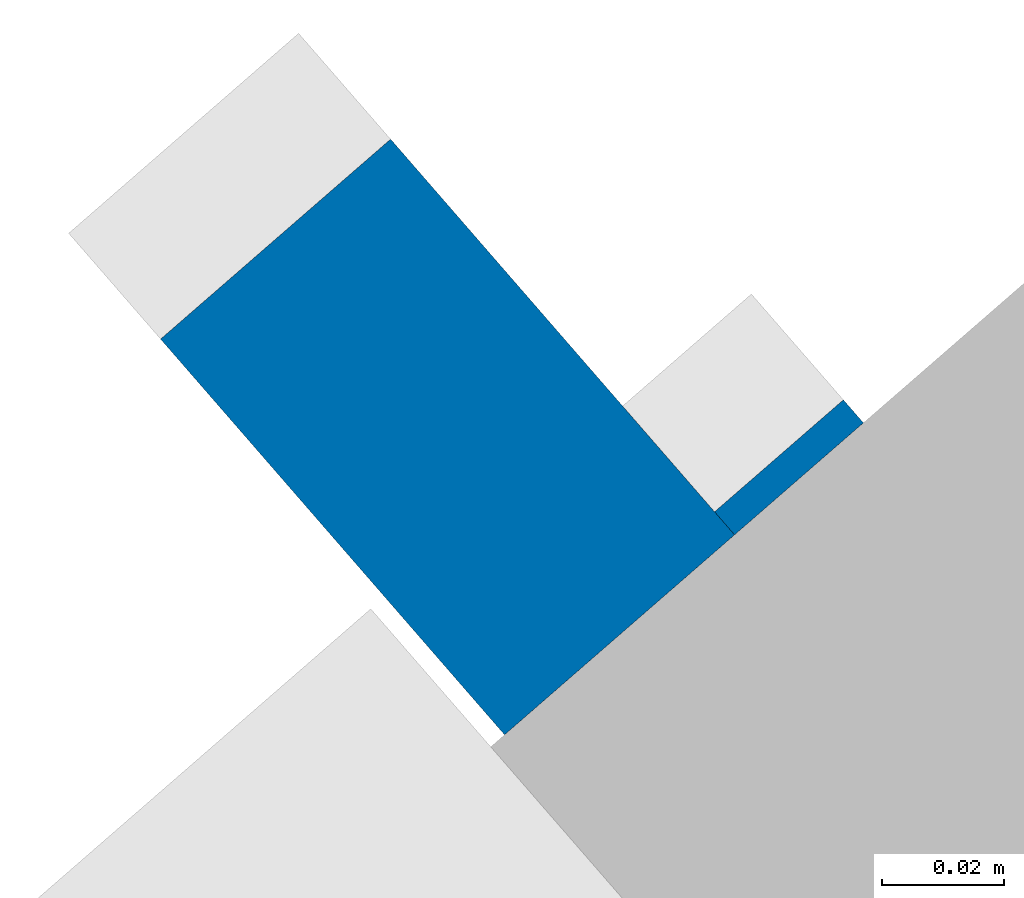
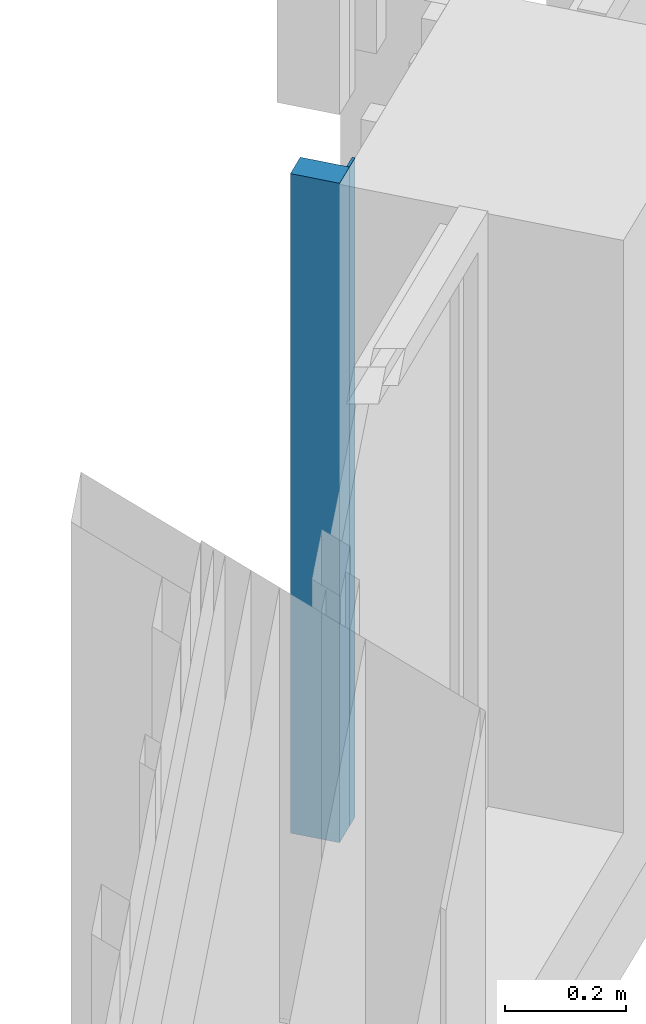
# One storey, part 226 of 390: 2 walls.
"""IFC2X3 building model written with IfcOpenShell, lengths in millimetres."""

from ifc_helpers import new_model, entity, si_unit, converted_unit, derived_unit, money_unit, direction, frame, origin_with_axes, place, context, subcontext, project, spatial, faceted_brep, material, type_object, element, save


model = new_model("IFC2X3")

# Units and contexts
model_context = context("Model", 3, precision=1e-05, world=origin_with_axes(), true_north=direction((0.0, 1.0)))
body_context = subcontext(model_context, "Body", "Model", "MODEL_VIEW")
ifc_project = project(units=[si_unit("LENGTHUNIT", "METRE", prefix="MILLI"), si_unit("AREAUNIT", "SQUARE_METRE"), si_unit("VOLUMEUNIT", "CUBIC_METRE"), converted_unit("PLANEANGLEUNIT", "DEGREE", entity("IfcPlaneAngleMeasure", 0.0174532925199), si_unit("PLANEANGLEUNIT", "RADIAN"), dimensions=[0, 0, 0, 0, 0, 0, 0]), si_unit("SOLIDANGLEUNIT", "STERADIAN"), money_unit("EUR"), converted_unit("TIMEUNIT", "Year", entity("IfcTimeMeasure", 31556926.0), si_unit("TIMEUNIT", "SECOND"), dimensions=[0, 0, 1, 0, 0, 0, 0]), si_unit("MASSUNIT", "GRAM", prefix="KILO"), si_unit("THERMODYNAMICTEMPERATUREUNIT", "DEGREE_CELSIUS"), si_unit("LUMINOUSINTENSITYUNIT", "LUMEN"), si_unit("ENERGYUNIT", "JOULE", prefix="MEGA"), derived_unit("THERMALCONDUCTANCEUNIT", [(si_unit("POWERUNIT", "WATT"), 1), (si_unit("LENGTHUNIT", "METRE"), -1), (si_unit("THERMODYNAMICTEMPERATUREUNIT", "KELVIN"), -1)]), derived_unit("SPECIFICHEATCAPACITYUNIT", [(si_unit("ENERGYUNIT", "JOULE"), 1), (si_unit("MASSUNIT", "GRAM", prefix="KILO"), -1), (si_unit("THERMODYNAMICTEMPERATUREUNIT", "KELVIN"), -1)]), derived_unit("MASSDENSITYUNIT", [(si_unit("MASSUNIT", "GRAM", prefix="KILO"), 1), (si_unit("VOLUMEUNIT", "CUBIC_METRE"), -1)])], contexts=[model_context])

# Site, building, storey
site_placement = place(None, origin_with_axes())
site = spatial("IfcSite", under=ifc_project, at=site_placement, Name="Site", CompositionType="ELEMENT")
building_placement = place(site_placement, origin_with_axes())
building = spatial("IfcBuilding", under=site, at=building_placement, Name="Building", CompositionType="ELEMENT")
storey_placement = place(building_placement, origin_with_axes())
storey = spatial("IfcBuildingStorey", under=building, at=storey_placement, Name="1 korrus", CompositionType="ELEMENT", Elevation=0.0)

# Walls
ifc_material = material(Name="Site specified")
wall_type = type_object("IfcWallType", Name="Puitfassaadi ribistik", PredefinedType="NOTDEFINED")
wall_1_placement = place(storey_placement, frame((139089.710489, 90900.2060405, 0.0), z_axis=(0.0, 0.0, 1.0), x_axis=(0.754709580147, 0.656059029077, 0.0)))
element("IfcWall", 1, at=wall_1_placement, inside=storey, type_object=wall_type, material=ifc_material, Name="Site specified", context=body_context, shape_type="Brep", body=[
    faceted_brep([(-14.0, 14.0, 1330.0), (-14.0, 8.9943962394, 1330.0), (14.0000000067, 8.99432992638, 1330.0), (14.0, 14.0, 1330.0), (-14.0, 14.0, 0.0), (-14.0, 8.99157073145, 0.0), (14.0, 8.99150733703, 0.0), (14.0, 14.0, 0.0)], [[[0, 1, 2, 3]], [[4, 5, 1, 0]], [[5, 6, 2, 1]], [[3, 2, 6, 7]], [[0, 3, 7, 4]], [[7, 6, 5, 4]]]),
])
wall_2_placement = place(storey_placement, frame((139033.706425, 90905.1854764, 0.0), z_axis=(0.0, 0.0, 1.0), x_axis=(0.754709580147, 0.656059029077, 0.0)))
element("IfcWall", 2, at=wall_2_placement, inside=storey, type_object=wall_type, material=ifc_material, Name="Site specified", context=body_context, shape_type="Brep", body=[
    faceted_brep([(-25.0, 54.5, 1330.0), (-25.0, -31.5054853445, 1330.0), (25.0000000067, -31.5056037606, 1330.0), (25.0, 54.5, 1330.0), (-25.0, 54.5, 0.0), (-25.0, -31.5083160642, 0.0), (25.0, -31.5084292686, 0.0), (25.0, 54.5, 0.0)], [[[0, 1, 2, 3]], [[4, 5, 1, 0]], [[5, 6, 2, 1]], [[3, 2, 6, 7]], [[0, 3, 7, 4]], [[7, 6, 5, 4]]]),
])

save(model, "model.ifc")
